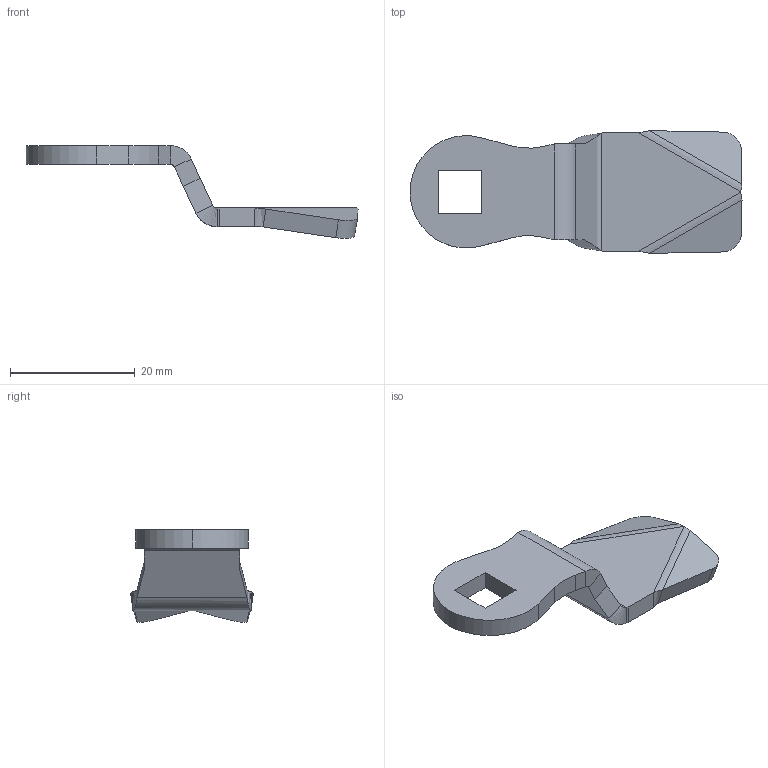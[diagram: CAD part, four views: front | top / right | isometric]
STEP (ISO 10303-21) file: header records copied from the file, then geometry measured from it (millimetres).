
FILE_DESCRIPTION (( 'STEP AP214' ), '1' );
FILE_NAME ('J-0021.STEP', '2010-03-02T19:09:06', ( '£ukaszC' ), ( '' ), 'SwSTEP 2.0', 'SolidWorks 2008', '' );
FILE_SCHEMA (( 'AUTOMOTIVE_DESIGN' ));
Length unit declared in the file: millimetre
Products named in the file (1): J-0021
Bounding box: 53.19 x 19.66 x 14.88 mm (x, y, z)
Volume: 2800.4 mm3; surface area: 2386.5 mm2
Topology: 1 solids, 1 shells, 53 faces, 121 edges, 70 vertices
Faces by surface type: plane 33, cylinder 14, bspline 6
Entity records: 1514 total; most frequent: CARTESIAN_POINT 363, ORIENTED_EDGE 242, DIRECTION 209, EDGE_CURVE 121, LINE 81, VECTOR 81, VERTEX_POINT 70, AXIS2_PLACEMENT_3D 64
